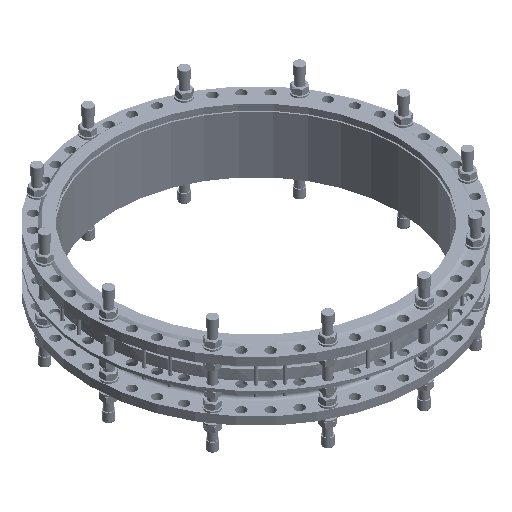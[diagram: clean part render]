
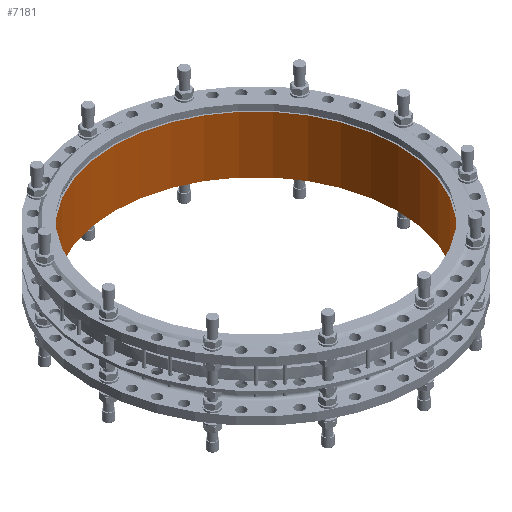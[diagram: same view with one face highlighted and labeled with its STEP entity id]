
A CAD part, isometric view. The second image highlights one B-rep face of the part: STEP entity #7181.
In plain terms, the highlighted cylindrical face has radius 1000 mm (diameter 2000 mm), a full revolution.
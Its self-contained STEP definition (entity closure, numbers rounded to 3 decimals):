
#7181=ADVANCED_FACE('',(#7957,#7959),#7961,.F.);
#7957=FACE_OUTER_BOUND('',#7958,.T.);
#7958=EDGE_LOOP('',(#11544));
#7959=FACE_OUTER_BOUND('',#7960,.T.);
#7960=EDGE_LOOP('',(#11545));
#7961=CYLINDRICAL_SURFACE('',#7962,1000.);
#7962=AXIS2_PLACEMENT_3D('',#7963,#7964,#7965);
#7963=CARTESIAN_POINT('',(0.,0.,0.));
#7964=DIRECTION('',(0.,0.,1.));
#7965=DIRECTION('',(-1.,0.,0.));
#11544=ORIENTED_EDGE('',*,*,#13731,.F.);
#11545=ORIENTED_EDGE('',*,*,#13732,.F.);
#13731=EDGE_CURVE('',#14740,#14740,#14741,.T.);
#13732=EDGE_CURVE('',#14742,#14742,#14743,.T.);
#14740=VERTEX_POINT('',#16561);
#14741=CIRCLE('',#16562,1000.);
#14742=VERTEX_POINT('',#16566);
#14743=CIRCLE('',#16567,1000.);
#16561=CARTESIAN_POINT('',(-1000.,0.,401.));
#16562=AXIS2_PLACEMENT_3D('',#16563,#16564,#16565);
#16563=CARTESIAN_POINT('',(0.,0.,401.));
#16564=DIRECTION('',(0.,0.,-1.));
#16565=DIRECTION('',(-1.,0.,0.));
#16566=CARTESIAN_POINT('',(-1000.,0.,0.));
#16567=AXIS2_PLACEMENT_3D('',#16568,#16569,#16570);
#16568=CARTESIAN_POINT('',(0.,0.,0.));
#16569=DIRECTION('',(0.,0.,1.));
#16570=DIRECTION('',(-1.,0.,0.));
